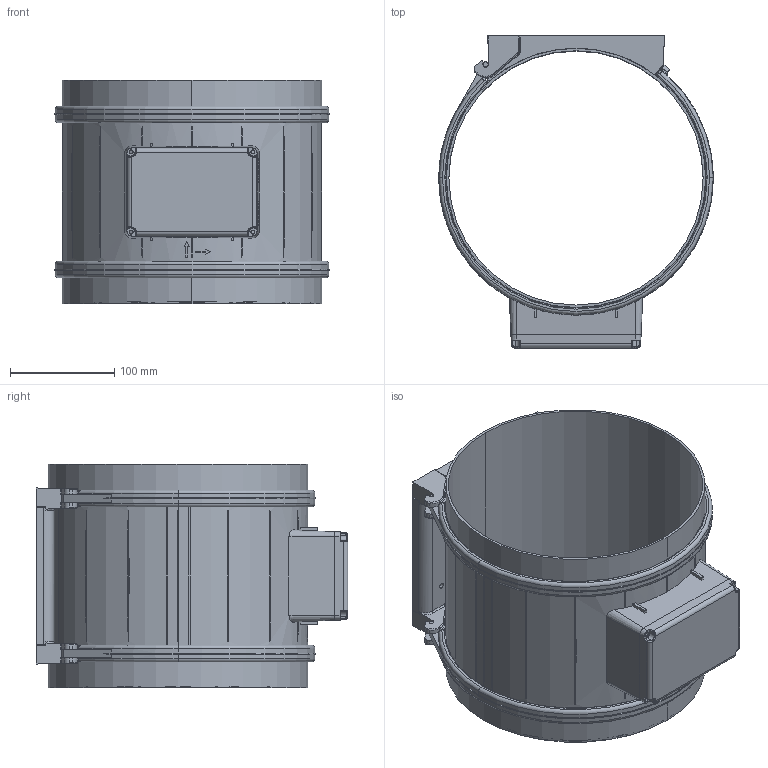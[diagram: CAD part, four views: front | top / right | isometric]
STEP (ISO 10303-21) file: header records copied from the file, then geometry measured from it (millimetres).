
FILE_DESCRIPTION (( 'STEP AP203' ), '1' );
FILE_NAME ('130491-00_EM250EC02.STEP', '2014-08-27T10:12:48', ( '' ), ( '' ), 'SwSTEP 2.0', 'SolidWorks 2012', '' );
FILE_SCHEMA (( 'CONFIG_CONTROL_DESIGN' ));
Length unit declared in the file: millimetre
Products named in the file (1): 130491-00_EM250EC02
Bounding box: 263.35 x 299.4 x 215 mm (x, y, z)
Surface area: 509447.5 mm2 (no closed solid volume)
Topology: 0 solids, 10 shells, 754 faces, 2917 edges, 2101 vertices
Faces by surface type: cylinder 258, plane 257, bspline 119, torus 78, cone 42
Entity records: 37553 total; most frequent: CARTESIAN_POINT 14988, ORIENTED_EDGE 4527, DIRECTION 4262, EDGE_CURVE 2913, VERTEX_POINT 2101, VECTOR 1458, LINE 1458, AXIS2_PLACEMENT_3D 1402
